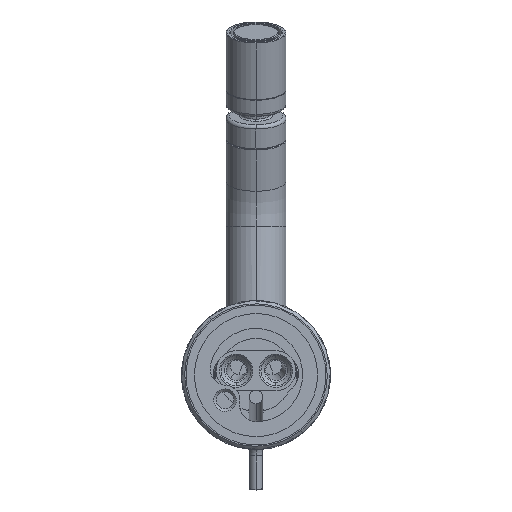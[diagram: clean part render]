
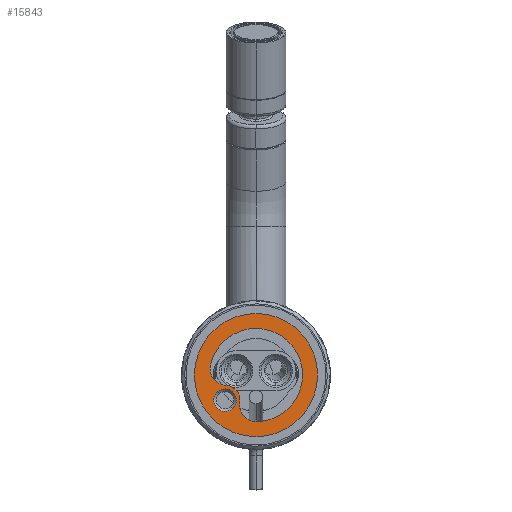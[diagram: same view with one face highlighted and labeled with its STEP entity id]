
A CAD part, front view. The second image highlights one B-rep face of the part: STEP entity #15843.
In plain terms, the highlighted planar face has unit normal (0, -1, 0).
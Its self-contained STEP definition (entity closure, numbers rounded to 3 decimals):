
#3890=CARTESIAN_POINT('',(0.,0.,0.));
#3891=DIRECTION('',(0.,1.,0.));
#3892=DIRECTION('',(-0.977,0.,0.215));
#3893=AXIS2_PLACEMENT_3D('',#3890,#3891,#3892);
#3908=CARTESIAN_POINT('',(0.,0.,0.));
#3909=DIRECTION('',(0.,-1.,0.));
#3910=DIRECTION('',(-0.629,0.,0.777));
#3911=AXIS2_PLACEMENT_3D('',#3908,#3909,#3910);
#3913=CARTESIAN_POINT('',(0.,0.,0.));
#3914=DIRECTION('',(0.,1.,0.));
#3915=DIRECTION('',(-0.629,0.,0.777));
#3916=AXIS2_PLACEMENT_3D('',#3913,#3914,#3915);
#3918=CARTESIAN_POINT('',(-8.79,0.,1.933));
#3919=DIRECTION('',(0.,-1.,0.));
#3920=DIRECTION('',(-0.977,0.,0.215));
#3921=AXIS2_PLACEMENT_3D('',#3918,#3919,#3920);
#3923=CARTESIAN_POINT('',(-9.326,0.,-7.552));
#3924=DIRECTION('',(0.,1.,0.));
#3925=DIRECTION('',(0.056,0.,0.998));
#3926=AXIS2_PLACEMENT_3D('',#3923,#3924,#3925);
#3928=CARTESIAN_POINT('',(0.063,0.,-9.));
#3929=DIRECTION('',(0.,-1.,0.));
#3930=DIRECTION('',(-0.988,0.,0.152));
#3931=AXIS2_PLACEMENT_3D('',#3928,#3929,#3930);
#3933=CARTESIAN_POINT('',(-9.326,0.,-7.552));
#3934=DIRECTION('',(0.,1.,0.));
#3935=DIRECTION('',(0.629,0.,-0.777));
#3936=AXIS2_PLACEMENT_3D('',#3933,#3934,#3935);
#3938=CARTESIAN_POINT('',(-9.326,0.,-7.552));
#3939=DIRECTION('',(0.,1.,0.));
#3940=DIRECTION('',(-0.629,0.,0.777));
#3941=AXIS2_PLACEMENT_3D('',#3938,#3939,#3940);
#12461=CARTESIAN_POINT('',(-11.642,0.,14.377));
#12463=VERTEX_POINT('',#12461);
#12469=CARTESIAN_POINT('',(11.642,0.,-14.377));
#12471=VERTEX_POINT('',#12469);
#12476=CARTESIAN_POINT('',(-9.072,0.,-3.059));
#12477=CARTESIAN_POINT('',(-4.878,0.,-8.238));
#12478=VERTEX_POINT('',#12476);
#12479=VERTEX_POINT('',#12477);
#12480=CARTESIAN_POINT('',(-13.673,0.,3.007));
#12482=VERTEX_POINT('',#12480);
#12484=CARTESIAN_POINT('',(0.098,0.,-14.));
#12486=VERTEX_POINT('',#12484);
#12492=CARTESIAN_POINT('',(-7.186,0.,-10.194));
#12493=CARTESIAN_POINT('',(-11.465,0.,-4.91));
#12494=VERTEX_POINT('',#12492);
#12495=VERTEX_POINT('',#12493);
#15817=CARTESIAN_POINT('',(0.,0.,0.));
#15818=DIRECTION('',(0.,1.,0.));
#15819=DIRECTION('',(0.629,0.,-0.777));
#15820=AXIS2_PLACEMENT_3D('',#15817,#15818,#15819);
#15821=PLANE('',#15820);
#15823=ORIENTED_EDGE('',*,*,#15822,.F.);
#15825=ORIENTED_EDGE('',*,*,#15824,.T.);
#15826=EDGE_LOOP('',(#15823,#15825));
#15827=FACE_OUTER_BOUND('',#15826,.F.);
#15828=ORIENTED_EDGE('',*,*,#15807,.F.);
#15830=ORIENTED_EDGE('',*,*,#15829,.T.);
#15832=ORIENTED_EDGE('',*,*,#15831,.T.);
#15834=ORIENTED_EDGE('',*,*,#15833,.T.);
#15835=EDGE_LOOP('',(#15828,#15830,#15832,#15834));
#15836=FACE_BOUND('',#15835,.F.);
#15838=ORIENTED_EDGE('',*,*,#15837,.F.);
#15840=ORIENTED_EDGE('',*,*,#15839,.F.);
#15841=EDGE_LOOP('',(#15838,#15840));
#15842=FACE_BOUND('',#15841,.F.);
#15843=ADVANCED_FACE('',(#15827,#15836,#15842),#15821,.F.);
#3894=CIRCLE('',#3893,14.);
#3912=CIRCLE('',#3911,18.5);
#3917=CIRCLE('',#3916,18.5);
#3922=CIRCLE('',#3921,5.);
#3927=CIRCLE('',#3926,4.5);
#3932=CIRCLE('',#3931,5.);
#3937=CIRCLE('',#3936,3.4);
#3942=CIRCLE('',#3941,3.4);
#15807=EDGE_CURVE('',#12482,#12486,#3894,.T.);
#15822=EDGE_CURVE('',#12463,#12471,#3912,.T.);
#15824=EDGE_CURVE('',#12463,#12471,#3917,.T.);
#15829=EDGE_CURVE('',#12482,#12478,#3922,.T.);
#15831=EDGE_CURVE('',#12478,#12479,#3927,.T.);
#15833=EDGE_CURVE('',#12479,#12486,#3932,.T.);
#15837=EDGE_CURVE('',#12494,#12495,#3937,.T.);
#15839=EDGE_CURVE('',#12495,#12494,#3942,.T.);
